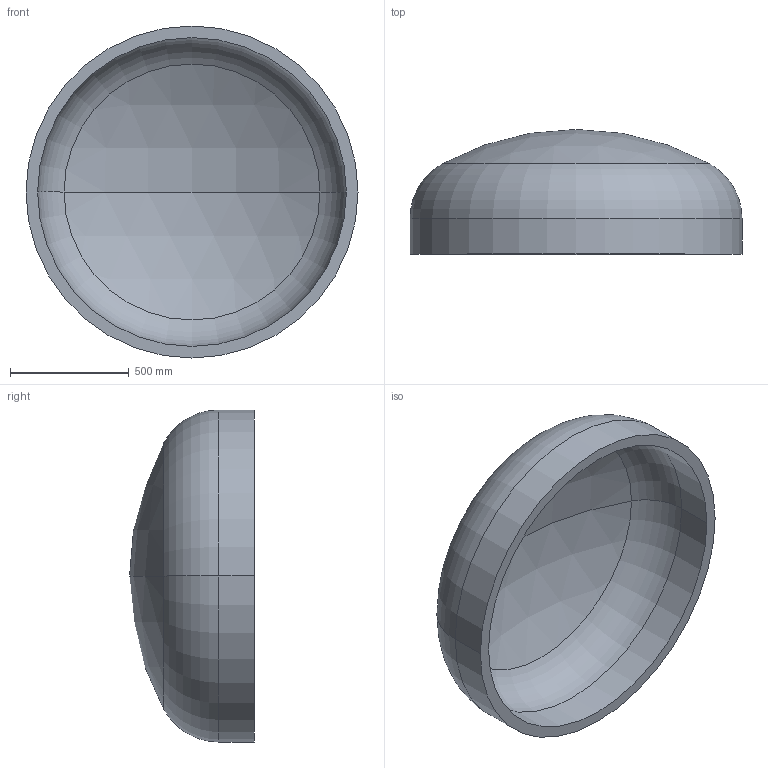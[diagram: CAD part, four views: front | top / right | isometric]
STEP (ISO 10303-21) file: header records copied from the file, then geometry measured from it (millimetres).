
FILE_DESCRIPTION (( 'STEP AP203' ), '1' );
FILE_NAME ('DIN 28013 Korbbogenform_-_Boden DIN 28013 - 1400 x 150 - I - s=49.step', '2016-07-01T10:20:22', ( '' ), ( '' ), 'SwSTEP 2.0', 'SolidWorks 2013', '' );
FILE_SCHEMA (( 'CONFIG_CONTROL_DESIGN' ));
Length unit declared in the file: millimetre
Products named in the file (1): DIN 28013 Korbbogenform_-_Boden DIN 28013 - 1400 x 150 - I - s=49
Bounding box: 1400 x 525.95 x 1400 mm (x, y, z)
Volume: 130957909.2 mm3; surface area: 5558218.3 mm2
Topology: 1 solids, 1 shells, 13 faces, 24 edges, 14 vertices
Faces by surface type: torus 4, cylinder 4, sphere 4, plane 1
Entity records: 407 total; most frequent: DIRECTION 72, CARTESIAN_POINT 52, ORIENTED_EDGE 48, AXIS2_PLACEMENT_3D 34, EDGE_CURVE 24, CIRCLE 20, EDGE_LOOP 14, VERTEX_POINT 14
